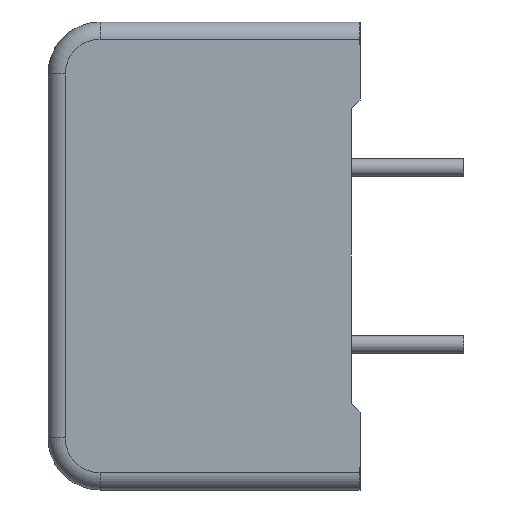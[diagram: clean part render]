
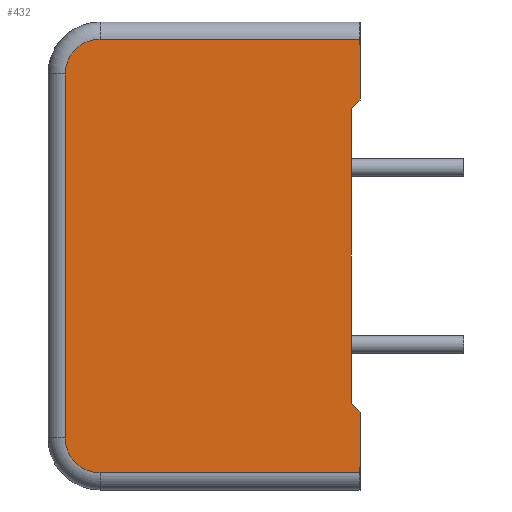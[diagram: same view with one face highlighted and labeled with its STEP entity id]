
A CAD part, left-side view. The second image highlights one B-rep face of the part: STEP entity #432.
In plain terms, the highlighted planar face has unit normal (-1, 0, 0).
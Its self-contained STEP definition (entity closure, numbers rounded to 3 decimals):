
#59 = AXIS2_PLACEMENT_3D ( 'NONE', #2229, #4364, #2587 ) ;
#170 = CARTESIAN_POINT ( 'NONE',  ( -21., 0.5, -8.5 ) ) ;
#203 = VERTEX_POINT ( 'NONE', #3125 ) ;
#365 = DIRECTION ( 'NONE',  ( 0., -0.707, 0.707 ) ) ;
#432 = ADVANCED_FACE ( 'NONE', ( #2544 ), #810, .F. ) ;
#437 = LINE ( 'NONE', #2932, #612 ) ;
#588 = DIRECTION ( 'NONE',  ( 0., 0., -1. ) ) ;
#612 = VECTOR ( 'NONE', #2256, 1000. ) ;
#617 = ORIENTED_EDGE ( 'NONE', *, *, #2386, .T. ) ;
#623 = DIRECTION ( 'NONE',  ( 0., 0.707, 0.707 ) ) ;
#645 = LINE ( 'NONE', #3364, #4153 ) ;
#810 = PLANE ( 'NONE',  #3768 ) ;
#953 = LINE ( 'NONE', #3042, #4330 ) ;
#987 = CARTESIAN_POINT ( 'NONE',  ( -21., 15., 12.5 ) ) ;
#1052 = VECTOR ( 'NONE', #1935, 1000. ) ;
#1083 = CARTESIAN_POINT ( 'NONE',  ( -21., 0., -9. ) ) ;
#1100 = VERTEX_POINT ( 'NONE', #3135 ) ;
#1152 = VERTEX_POINT ( 'NONE', #2168 ) ;
#1212 = CARTESIAN_POINT ( 'NONE',  ( -21., 18., 12.5 ) ) ;
#1221 = VECTOR ( 'NONE', #2687, 1000. ) ;
#1442 = VERTEX_POINT ( 'NONE', #4434 ) ;
#1680 = EDGE_CURVE ( 'NONE', #2130, #2804, #3730, .T. ) ;
#1700 = DIRECTION ( 'NONE',  ( 0., -1., 0. ) ) ;
#1719 = DIRECTION ( 'NONE',  ( 1., 0., 0. ) ) ;
#1729 = ORIENTED_EDGE ( 'NONE', *, *, #2144, .T. ) ;
#1754 = EDGE_LOOP ( 'NONE', ( #2464, #2566, #3522, #3712, #3809, #3949, #617, #1729, #1834, #2049 ) ) ;
#1770 = CARTESIAN_POINT ( 'NONE',  ( -21., 15., -10.5 ) ) ;
#1796 = DIRECTION ( 'NONE',  ( 0., 0., -1. ) ) ;
#1803 = VERTEX_POINT ( 'NONE', #987 ) ;
#1834 = ORIENTED_EDGE ( 'NONE', *, *, #1911, .T. ) ;
#1888 = VERTEX_POINT ( 'NONE', #2107 ) ;
#1911 = EDGE_CURVE ( 'NONE', #2022, #2130, #4070, .T. ) ;
#1935 = DIRECTION ( 'NONE',  ( 0., 1., 0. ) ) ;
#2022 = VERTEX_POINT ( 'NONE', #4011 ) ;
#2049 = ORIENTED_EDGE ( 'NONE', *, *, #1680, .T. ) ;
#2063 = DIRECTION ( 'NONE',  ( 0., 0., 1. ) ) ;
#2107 = CARTESIAN_POINT ( 'NONE',  ( -21., 17., 10.5 ) ) ;
#2121 = DIRECTION ( 'NONE',  ( 0., 0., -1. ) ) ;
#2130 = VERTEX_POINT ( 'NONE', #2137 ) ;
#2137 = CARTESIAN_POINT ( 'NONE',  ( -21., 15., -12.5 ) ) ;
#2144 = EDGE_CURVE ( 'NONE', #1888, #2022, #2509, .T. ) ;
#2150 = CARTESIAN_POINT ( 'NONE',  ( -21., 17., -10.5 ) ) ;
#2165 = LINE ( 'NONE', #2341, #1221 ) ;
#2168 = CARTESIAN_POINT ( 'NONE',  ( -21., 0., 9. ) ) ;
#2229 = CARTESIAN_POINT ( 'NONE',  ( -21., 15., 10.5 ) ) ;
#2233 = VERTEX_POINT ( 'NONE', #1083 ) ;
#2256 = DIRECTION ( 'NONE',  ( 0., 0., 1. ) ) ;
#2320 = CARTESIAN_POINT ( 'NONE',  ( -21., 0., -12.5 ) ) ;
#2339 = VECTOR ( 'NONE', #623, 1000. ) ;
#2341 = CARTESIAN_POINT ( 'NONE',  ( -21., 0., -13.5 ) ) ;
#2386 = EDGE_CURVE ( 'NONE', #1803, #1888, #4464, .T. ) ;
#2464 = ORIENTED_EDGE ( 'NONE', *, *, #2534, .T. ) ;
#2509 = LINE ( 'NONE', #2150, #4409 ) ;
#2530 = VECTOR ( 'NONE', #1700, 1000. ) ;
#2534 = EDGE_CURVE ( 'NONE', #2804, #2233, #437, .T. ) ;
#2544 = FACE_OUTER_BOUND ( 'NONE', #1754, .T. ) ;
#2566 = ORIENTED_EDGE ( 'NONE', *, *, #3435, .T. ) ;
#2587 = DIRECTION ( 'NONE',  ( 0., 0., -1. ) ) ;
#2614 = EDGE_CURVE ( 'NONE', #1442, #1803, #3716, .T. ) ;
#2687 = DIRECTION ( 'NONE',  ( 0., 0., 1. ) ) ;
#2804 = VERTEX_POINT ( 'NONE', #2320 ) ;
#2845 = EDGE_CURVE ( 'NONE', #1152, #1442, #2165, .T. ) ;
#2932 = CARTESIAN_POINT ( 'NONE',  ( -21., 0., -13.5 ) ) ;
#3042 = CARTESIAN_POINT ( 'NONE',  ( -21., 0., 9. ) ) ;
#3057 = EDGE_CURVE ( 'NONE', #1100, #1152, #953, .T. ) ;
#3125 = CARTESIAN_POINT ( 'NONE',  ( -21., 0.5, -8.5 ) ) ;
#3135 = CARTESIAN_POINT ( 'NONE',  ( -21., 0.5, 8.5 ) ) ;
#3243 = EDGE_CURVE ( 'NONE', #203, #1100, #645, .T. ) ;
#3285 = LINE ( 'NONE', #170, #2339 ) ;
#3364 = CARTESIAN_POINT ( 'NONE',  ( -21., 0.5, 8.5 ) ) ;
#3435 = EDGE_CURVE ( 'NONE', #2233, #203, #3285, .T. ) ;
#3522 = ORIENTED_EDGE ( 'NONE', *, *, #3243, .T. ) ;
#3634 = CARTESIAN_POINT ( 'NONE',  ( -21., 18., -12.5 ) ) ;
#3712 = ORIENTED_EDGE ( 'NONE', *, *, #3057, .T. ) ;
#3716 = LINE ( 'NONE', #1212, #1052 ) ;
#3730 = LINE ( 'NONE', #3634, #2530 ) ;
#3747 = CARTESIAN_POINT ( 'NONE',  ( -21., 18., -13.5 ) ) ;
#3768 = AXIS2_PLACEMENT_3D ( 'NONE', #3747, #1719, #1796 ) ;
#3809 = ORIENTED_EDGE ( 'NONE', *, *, #2845, .T. ) ;
#3949 = ORIENTED_EDGE ( 'NONE', *, *, #2614, .T. ) ;
#3998 = DIRECTION ( 'NONE',  ( -1., 0., 0. ) ) ;
#4011 = CARTESIAN_POINT ( 'NONE',  ( -21., 17., -10.5 ) ) ;
#4070 = CIRCLE ( 'NONE', #4157, 2. ) ;
#4153 = VECTOR ( 'NONE', #2063, 1000. ) ;
#4157 = AXIS2_PLACEMENT_3D ( 'NONE', #1770, #3998, #2121 ) ;
#4330 = VECTOR ( 'NONE', #365, 1000. ) ;
#4364 = DIRECTION ( 'NONE',  ( -1., 0., 0. ) ) ;
#4409 = VECTOR ( 'NONE', #588, 1000. ) ;
#4434 = CARTESIAN_POINT ( 'NONE',  ( -21., 0., 12.5 ) ) ;
#4464 = CIRCLE ( 'NONE', #59, 2. ) ;
